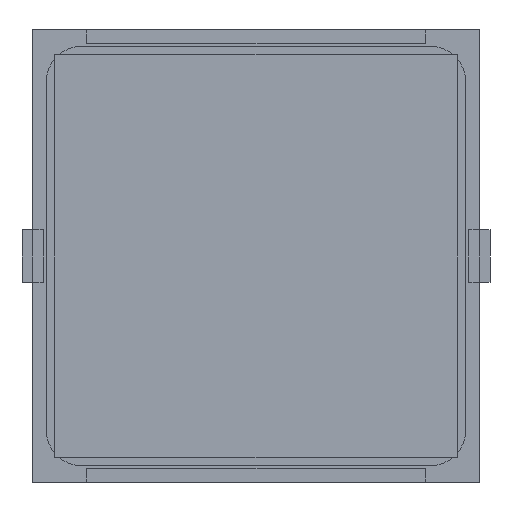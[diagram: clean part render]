
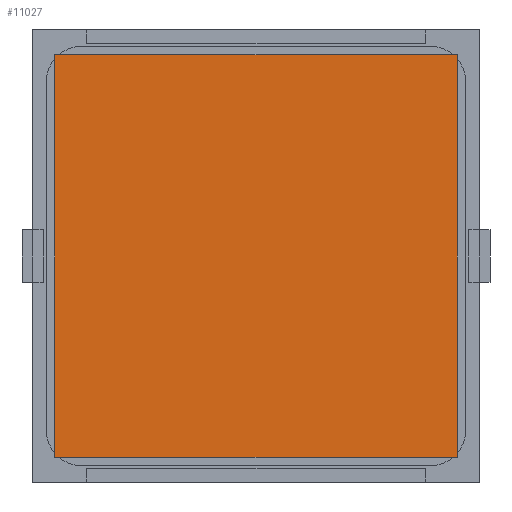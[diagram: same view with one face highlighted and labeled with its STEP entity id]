
A CAD part, front view. The second image highlights one B-rep face of the part: STEP entity #11027.
In plain terms, the highlighted planar face has unit normal (0, -1, 0).
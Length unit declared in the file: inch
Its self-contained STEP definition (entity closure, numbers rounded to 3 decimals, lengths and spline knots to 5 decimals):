
#142 = DIRECTION ( 'NONE',  ( -1., 0., 0. ) ) ;
#790 = CARTESIAN_POINT ( 'NONE',  ( -0.74803, -0.005, -0.74803 ) ) ;
#886 = LINE ( 'NONE', #6624, #4365 ) ;
#981 = VECTOR ( 'NONE', #142, 39.37008 ) ;
#1383 = DIRECTION ( 'NONE',  ( 0., 1., 0. ) ) ;
#1478 = DIRECTION ( 'NONE',  ( 0., 0., 1. ) ) ;
#1500 = CARTESIAN_POINT ( 'NONE',  ( -0.74803, -0.005, 0.74803 ) ) ;
#1863 = ORIENTED_EDGE ( 'NONE', *, *, #3984, .F. ) ;
#2174 = VECTOR ( 'NONE', #1478, 39.37008 ) ;
#3228 = CARTESIAN_POINT ( 'NONE',  ( 0.74803, -0.005, -0.74803 ) ) ;
#3984 = EDGE_CURVE ( 'NONE', #10743, #11861, #11627, .T. ) ;
#4112 = EDGE_LOOP ( 'NONE', ( #1863, #4845, #4920, #4473 ) ) ;
#4365 = VECTOR ( 'NONE', #10217, 39.37008 ) ;
#4473 = ORIENTED_EDGE ( 'NONE', *, *, #9890, .F. ) ;
#4845 = ORIENTED_EDGE ( 'NONE', *, *, #5924, .F. ) ;
#4920 = ORIENTED_EDGE ( 'NONE', *, *, #9084, .F. ) ;
#4966 = VECTOR ( 'NONE', #8514, 39.37008 ) ;
#5753 = LINE ( 'NONE', #9413, #981 ) ;
#5924 = EDGE_CURVE ( 'NONE', #6708, #10743, #5753, .T. ) ;
#6624 = CARTESIAN_POINT ( 'NONE',  ( 0.74803, -0.005, -0.74803 ) ) ;
#6708 = VERTEX_POINT ( 'NONE', #3228 ) ;
#7064 = CARTESIAN_POINT ( 'NONE',  ( -0.74803, -0.005, -0.74803 ) ) ;
#8393 = LINE ( 'NONE', #11992, #4966 ) ;
#8514 = DIRECTION ( 'NONE',  ( 1., 0., 0. ) ) ;
#9065 = DIRECTION ( 'NONE',  ( 0., 0., 1. ) ) ;
#9084 = EDGE_CURVE ( 'NONE', #9680, #6708, #886, .T. ) ;
#9413 = CARTESIAN_POINT ( 'NONE',  ( -0.74803, -0.005, -0.74803 ) ) ;
#9680 = VERTEX_POINT ( 'NONE', #11341 ) ;
#9709 = PLANE ( 'NONE',  #11447 ) ;
#9890 = EDGE_CURVE ( 'NONE', #11861, #9680, #8393, .T. ) ;
#9901 = FACE_OUTER_BOUND ( 'NONE', #4112, .T. ) ;
#10217 = DIRECTION ( 'NONE',  ( 0., 0., -1. ) ) ;
#10649 = CARTESIAN_POINT ( 'NONE',  ( -0.74803, -0.005, 0.74803 ) ) ;
#10743 = VERTEX_POINT ( 'NONE', #790 ) ;
#11027 = ADVANCED_FACE ( 'NONE', ( #9901 ), #9709, .F. ) ;
#11341 = CARTESIAN_POINT ( 'NONE',  ( 0.74803, -0.005, 0.74803 ) ) ;
#11447 = AXIS2_PLACEMENT_3D ( 'NONE', #10649, #1383, #9065 ) ;
#11627 = LINE ( 'NONE', #7064, #2174 ) ;
#11861 = VERTEX_POINT ( 'NONE', #1500 ) ;
#11992 = CARTESIAN_POINT ( 'NONE',  ( -0.74803, -0.005, 0.74803 ) ) ;
